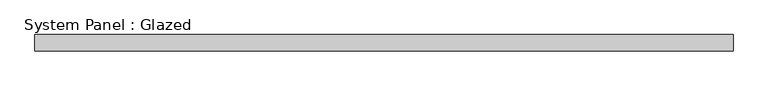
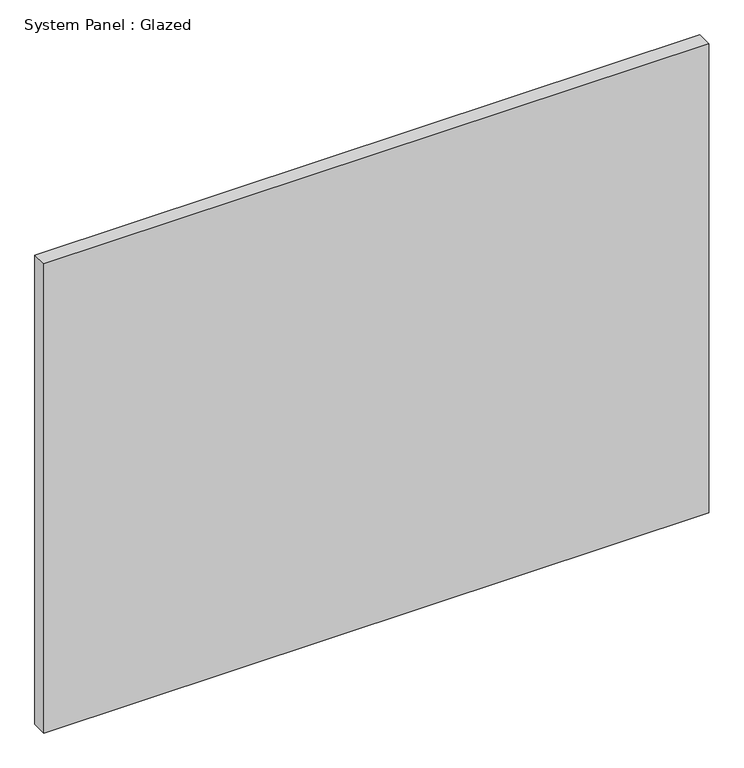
"""IFC4 building model written with IfcOpenShell, lengths in millimetres: plate geometry, System Panel : Glazed."""

from ifc_helpers import new_model, si_unit, origin, origin_with_axes, place, context, project, spatial, polyline, outline, extrude, source, transform, mapped, element, save


def system_panel_glazed_5ae89cf9(model_context):
    return source(origin(), model_context, "Body", "SweptSolid", [
        extrude(outline(polyline([(548.9162502, 19.05), (-548.9162502, 19.05), (-548.9162502, 44.45), (548.9162502, 44.45), (548.9162502, 19.05)])), origin_with_axes(), (0.0, 0.0, 1.0), 819.15),
    ])


if __name__ == "__main__":
    model = new_model("IFC4")
    model_context = context("Model", 3, world=origin())
    ifc_project = project(units=[si_unit("LENGTHUNIT", "METRE", prefix="MILLI")], contexts=[model_context])
    site = spatial("IfcSite", under=ifc_project)
    building = spatial("IfcBuilding", under=site)
    placement = place(None, origin())
    system_panel_glazed_shape = system_panel_glazed_5ae89cf9(model_context)
    element("IfcPlate", 1, ObjectType="System Panel : Glazed", at=placement, inside=building, context=model_context, shape_type="MappedRepresentation", body=[
        mapped(system_panel_glazed_shape, transform((0.0, 0.0, 0.0), x_axis=(1.0, 0.0, 0.0), y_axis=(0.0, 1.0, 0.0), z_axis=(0.0, 0.0, 1.0))),
    ])
    save(model, "model.ifc")
